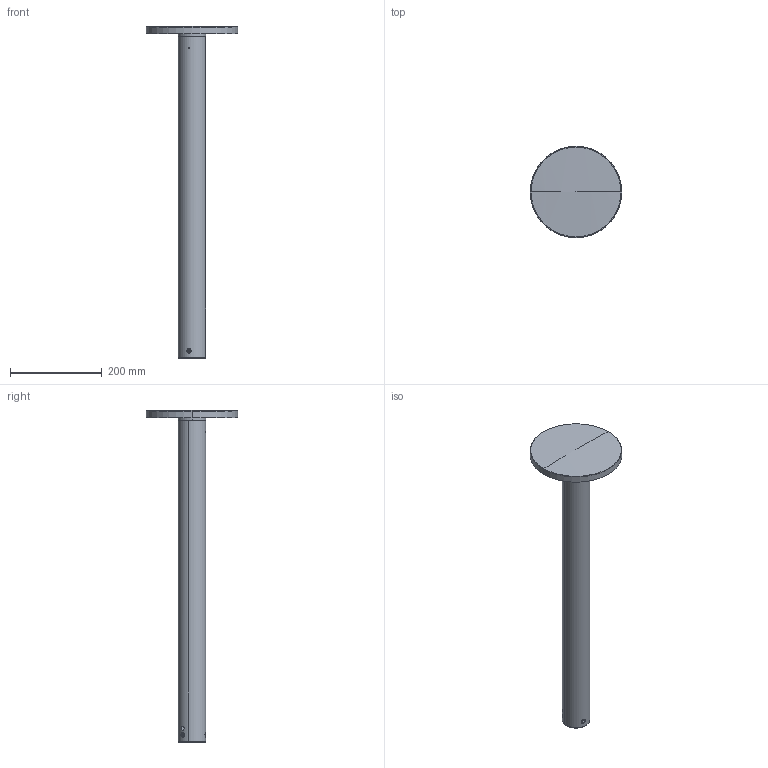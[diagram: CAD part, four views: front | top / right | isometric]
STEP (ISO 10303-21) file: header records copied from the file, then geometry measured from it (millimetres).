
FILE_DESCRIPTION((''),'2;1');
FILE_NAME('STIK-200-H700_SW0001','2025-05-26T16:32:28',('elena.baldelli'),(''),'CREO PARAMETRIC BY PTC INC, 2020354','CREO PARAMETRIC BY PTC INC, 2020354','');
FILE_SCHEMA(('CONFIG_CONTROL_DESIGN'));
Length unit declared in the file: millimetre
Products named in the file (1): STIK-200-H700_SW0001
Bounding box: 200 x 200 x 725 mm (x, y, z)
Surface area: 212108.1 mm2 (no closed solid volume)
Topology: 0 solids, 10 shells, 24 faces, 126 edges, 109 vertices
Faces by surface type: plane 8, cone 6, torus 6, cylinder 2, sphere 2
Entity records: 1454 total; most frequent: CARTESIAN_POINT 385, DIRECTION 240, ORIENTED_EDGE 152, EDGE_CURVE 124, VERTEX_POINT 109, AXIS2_PLACEMENT_3D 104, CIRCLE 80, EDGE_LOOP 41
